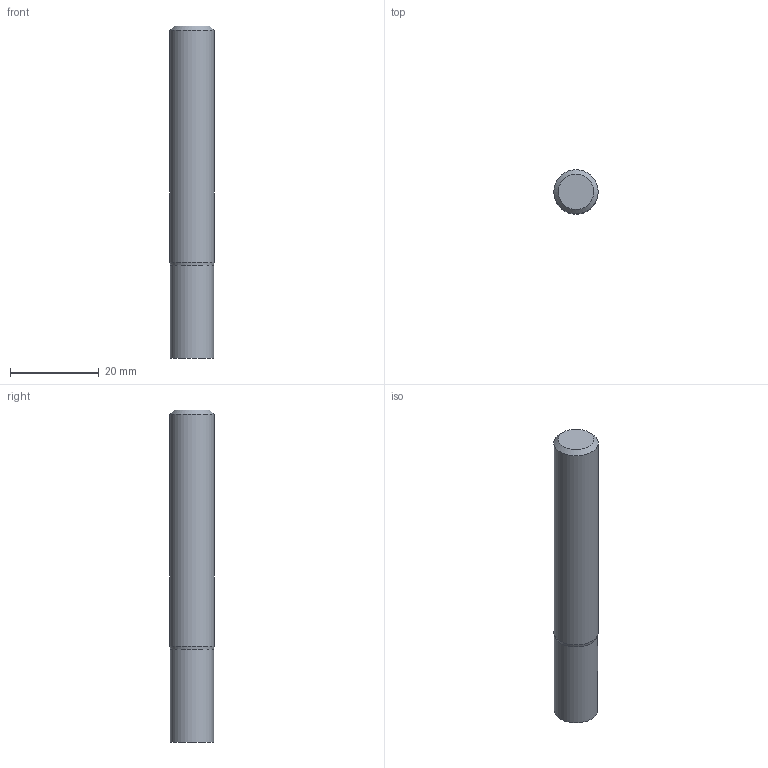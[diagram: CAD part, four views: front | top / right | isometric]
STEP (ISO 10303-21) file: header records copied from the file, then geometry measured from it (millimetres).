
FILE_DESCRIPTION((''),'2;1');
FILE_NAME('C:\Users\nsx150\AppData\Local\Temp\Mastercam 2021\98T1Q6BTT1\TEMP.step','2021-10-21T14:50:01',(''),(''),'STEP Write','Mastercam 2021 ... CNC Software, Inc.','');
FILE_SCHEMA(('AUTOMOTIVE_DESIGN'));
Length unit declared in the file: millimetre
Products named in the file (1): None
Bounding box: 10 x 10 x 75 mm (x, y, z)
Volume: 5809.5 mm3; surface area: 2628.2 mm2
Topology: 2 solids, 2 shells, 8 faces, 10 edges, 6 vertices
Faces by surface type: plane 4, cylinder 2, cone 2
Full cylindrical faces by diameter (mm): 9.8 x1, 10 x1
Entity records: 190 total; most frequent: DIRECTION 32, CARTESIAN_POINT 22, AXIS2_PLACEMENT_3D 16, ORIENTED_EDGE 12, EDGE_LOOP 12, STYLED_ITEM 11, ADVANCED_FACE 8, VERTEX_POINT 6
